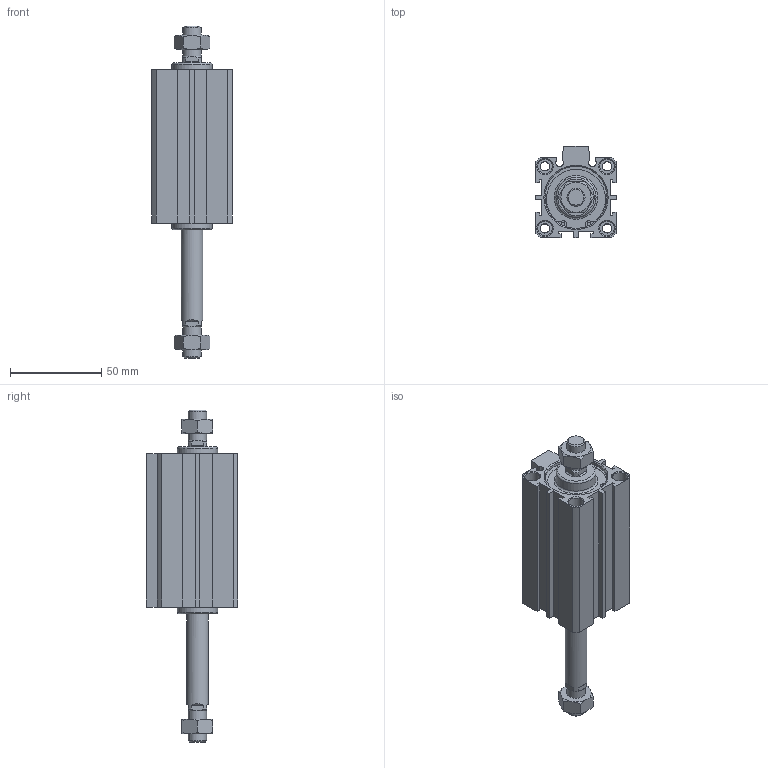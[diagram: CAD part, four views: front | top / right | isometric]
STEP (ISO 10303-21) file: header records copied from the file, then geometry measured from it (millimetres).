
FILE_DESCRIPTION((''),'2;1');
FILE_NAME('I:\3D電子目錄\氣缸\JDD\JDD-BS\JDD32-BS\JDD32x50-BS.stp','2007-02-27T14:06:20',('662F206'),(''),'Autodesk Inventor 10','Autodesk Inventor 10','');
FILE_SCHEMA(('AUTOMOTIVE_DESIGN { 1 0 10303 214 1 1 1 1 }'));
Length unit declared in the file: millimetre
Products named in the file (3): JDD32-BS; R 形環 35
Assembly tree (3 placements, depth 2):
  JDD32-BS
    JDD32-BS
    R 形環 35  x2
Bounding box: 44 x 50 x 182 mm (x, y, z)
Volume: 155164.9 mm3; surface area: 39442.4 mm2
Topology: 3 solids, 3 shells, 207 faces, 489 edges, 314 vertices
Faces by surface type: plane 112, cylinder 53, cone 38, bspline 2, torus 2
Full cylindrical faces by diameter (mm): 1.9 x4, 2.2 x2, 5.1 x4, 8 x8, 10 x4, 12 x1, 22 x2, 34 x4, 36 x2
Entity records: 5397 total; most frequent: CARTESIAN_POINT 1081, DIRECTION 894, ORIENTED_EDGE 802, EDGE_CURVE 401, AXIS2_PLACEMENT_3D 346, VERTEX_POINT 287, EDGE_LOOP 284, VECTOR 202
